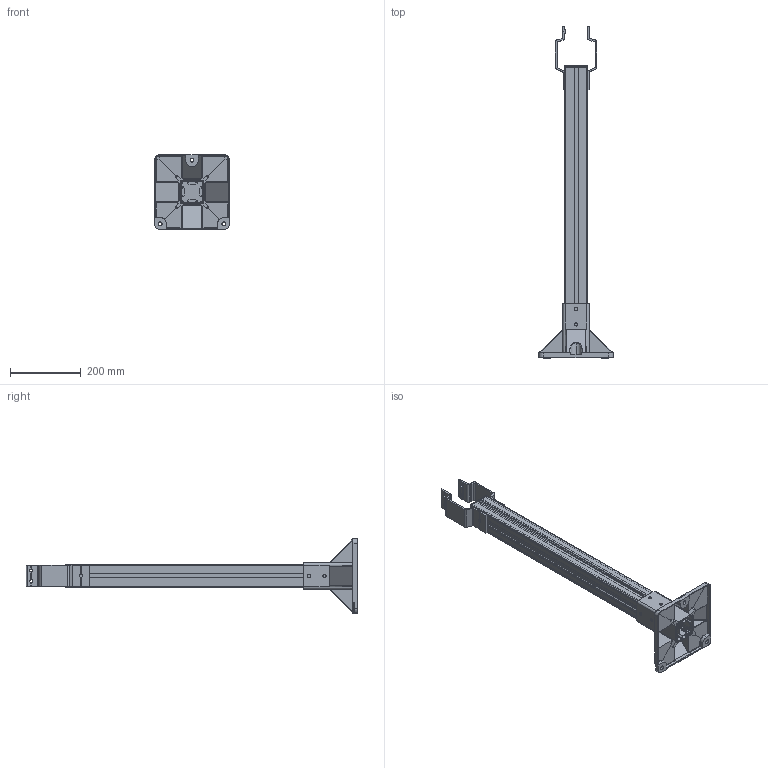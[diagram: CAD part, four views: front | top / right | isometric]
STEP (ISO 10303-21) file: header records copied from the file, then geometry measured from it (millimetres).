
FILE_DESCRIPTION (( 'STEP AP214' ), '1' );
FILE_NAME ('FS-PC64.STEP', '2011-04-13T14:21:19', ( '.' ), ( '' ), 'SwSTEP 2.0', 'SolidWorks 2010', '' );
FILE_SCHEMA (( 'AUTOMOTIVE_DESIGN' ));
Length unit declared in the file: millimetre
Products named in the file (5): FS-PC64; ___TC64.long820; EC210-64; FAVBS-60S_Default; 254 01 004.embout
Assembly tree (5 placements, depth 2):
  FS-PC64
    FAVBS-60S_Default  x2
    EC210-64
    254 01 004.embout
    ___TC64.long820
Bounding box: 210 x 936.35 x 210 mm (x, y, z)
Volume: 1019343.7 mm3; surface area: 934449.7 mm2
Topology: 5 solids, 5 shells, 606 faces, 1672 edges, 1066 vertices
Faces by surface type: plane 295, cylinder 254, bspline 37, sphere 12, cone 4, torus 4
Entity records: 18531 total; most frequent: CARTESIAN_POINT 4540, ORIENTED_EDGE 3032, DIRECTION 2797, EDGE_CURVE 1516, VERTEX_POINT 970, LINE 963, VECTOR 963, AXIS2_PLACEMENT_3D 917
